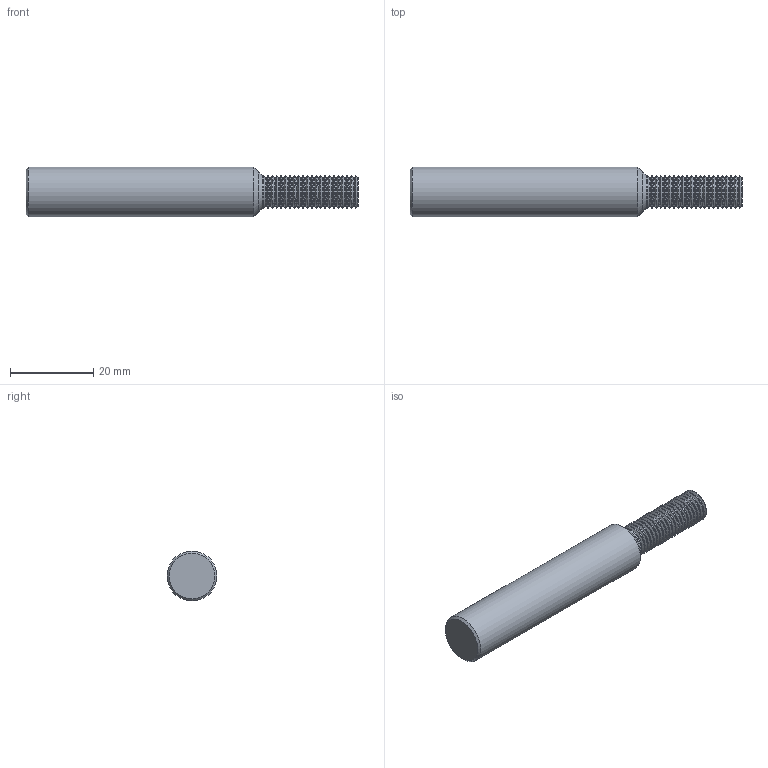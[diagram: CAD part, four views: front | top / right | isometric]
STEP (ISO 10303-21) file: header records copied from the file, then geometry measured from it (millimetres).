
FILE_DESCRIPTION(/* description */ (''),/* implementation_level */ '2;1');
FILE_NAME(/* name */ '00036451-TDM',/* time_stamp */ '2024-02-21T08:26:47+01:00',/* author */ (''),/* organization */ (''),/* preprocessor_version */ 'ST-DEVELOPER v16.5',/* originating_system */ 'HiCAD 2017 2201.0 Build 268',/* authorisation */ '');
FILE_SCHEMA (('AUTOMOTIVE_DESIGN { 1 0 10303 214 1 1 1 1 }'));
Length unit declared in the file: millimetre
Products named in the file (3): Root; ROTATIONSTEIL_2
Assembly tree (2 placements, depth 3):
  Root
    ROTATIONSTEIL_2
      ROTATIONSTEIL_2
Bounding box: 80 x 12 x 12 mm (x, y, z)
Volume: 7317 mm3; surface area: 3291 mm2
Topology: 2 solids, 2 shells, 138 faces, 273 edges, 139 vertices
Faces by surface type: torus 64, cone 46, cylinder 24, plane 4
Full cylindrical faces by diameter (mm): 6.772 x22, 7.95 x1, 12 x1
Entity records: 4164 total; most frequent: DIRECTION 556, CARTESIAN_POINT 414, AXIS2_PLACEMENT_3D 278, PRESENTATION_STYLE_ASSIGNMENT 274, COLOUR_RGB 274, DRAUGHTING_PRE_DEFINED_CURVE_FONT 272, CURVE_STYLE 272, OVER_RIDING_STYLED_ITEM 272
